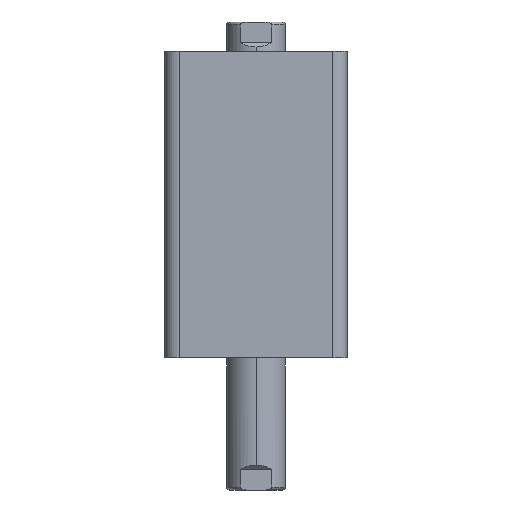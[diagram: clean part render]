
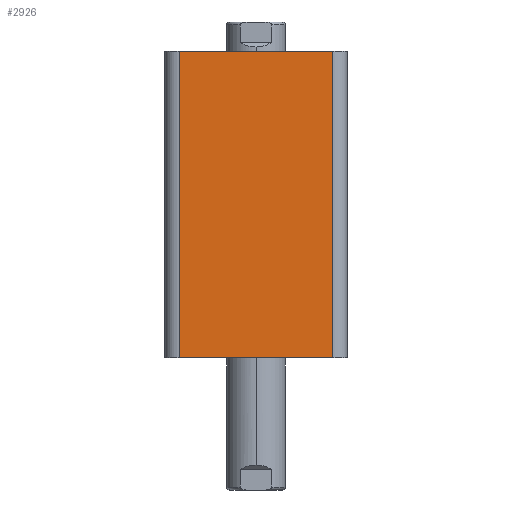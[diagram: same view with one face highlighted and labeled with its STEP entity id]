
A CAD part, left-side view. The second image highlights one B-rep face of the part: STEP entity #2926.
In plain terms, the highlighted planar face has unit normal (-1, 0, 0).
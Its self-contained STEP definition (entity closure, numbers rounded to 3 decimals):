
#47 = LINE ( 'NONE', #1876, #56 ) ;
#51 = LINE ( 'NONE', #1887, #54 ) ;
#54 = VECTOR ( 'NONE', #1888, 1000. ) ;
#55 = LINE ( 'NONE', #1890, #58 ) ;
#56 = VECTOR ( 'NONE', #1889, 1000. ) ;
#57 = LINE ( 'NONE', #1892, #60 ) ;
#58 = VECTOR ( 'NONE', #1891, 1000. ) ;
#60 = VECTOR ( 'NONE', #1893, 1000. ) ;
#367 = CARTESIAN_POINT ( 'NONE',  ( -31., 31., 104. ) ) ;
#376 = PLANE ( 'NONE',  #2751 ) ;
#378 = DIRECTION ( 'NONE',  ( 1., 0., 0. ) ) ;
#379 = DIRECTION ( 'NONE',  ( 0., 1., 0. ) ) ;
#617 = VERTEX_POINT ( 'NONE', #871 ) ;
#627 = VERTEX_POINT ( 'NONE', #1793 ) ;
#871 = CARTESIAN_POINT ( 'NONE',  ( -31., 26., 0. ) ) ;
#952 = FACE_OUTER_BOUND ( 'NONE', #3014, .T. ) ;
#1401 = CARTESIAN_POINT ( 'NONE',  ( -31., -26., 104. ) ) ;
#1402 = CARTESIAN_POINT ( 'NONE',  ( -31., -26., 0. ) ) ;
#1577 = EDGE_CURVE ( 'NONE', #617, #2267, #51, .T. ) ;
#1578 = EDGE_CURVE ( 'NONE', #2267, #2266, #47, .T. ) ;
#1579 = EDGE_CURVE ( 'NONE', #627, #2266, #55, .T. ) ;
#1580 = EDGE_CURVE ( 'NONE', #627, #617, #57, .T. ) ;
#1793 = CARTESIAN_POINT ( 'NONE',  ( -31., 26., 104. ) ) ;
#1876 = CARTESIAN_POINT ( 'NONE',  ( -31., -26., 104. ) ) ;
#1887 = CARTESIAN_POINT ( 'NONE',  ( -31., 31., 0. ) ) ;
#1888 = DIRECTION ( 'NONE',  ( 0., -1., 0. ) ) ;
#1889 = DIRECTION ( 'NONE',  ( 0., 0., 1. ) ) ;
#1890 = CARTESIAN_POINT ( 'NONE',  ( -31., 31., 104. ) ) ;
#1891 = DIRECTION ( 'NONE',  ( 0., -1., 0. ) ) ;
#1892 = CARTESIAN_POINT ( 'NONE',  ( -31., 26., 104. ) ) ;
#1893 = DIRECTION ( 'NONE',  ( 0., 0., -1. ) ) ;
#2266 = VERTEX_POINT ( 'NONE', #1401 ) ;
#2267 = VERTEX_POINT ( 'NONE', #1402 ) ;
#2342 = ORIENTED_EDGE ( 'NONE', *, *, #1577, .T. ) ;
#2343 = ORIENTED_EDGE ( 'NONE', *, *, #1578, .T. ) ;
#2344 = ORIENTED_EDGE ( 'NONE', *, *, #1579, .F. ) ;
#2345 = ORIENTED_EDGE ( 'NONE', *, *, #1580, .T. ) ;
#2751 = AXIS2_PLACEMENT_3D ( 'NONE', #367, #378, #379 ) ;
#2926 = ADVANCED_FACE ( 'NONE', ( #952 ), #376, .F. ) ;
#3014 = EDGE_LOOP ( 'NONE', ( #2342, #2343, #2344, #2345 ) ) ;
